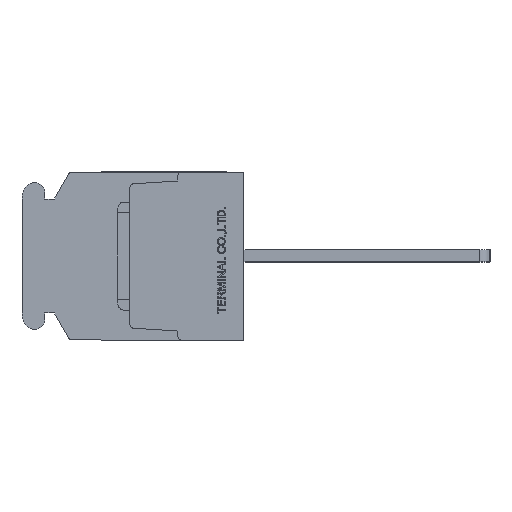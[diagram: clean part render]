
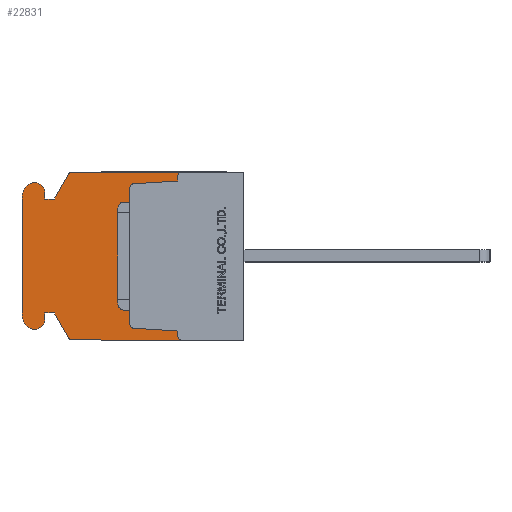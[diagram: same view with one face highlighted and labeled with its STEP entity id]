
A CAD part, left-side view. The second image highlights one B-rep face of the part: STEP entity #22831.
In plain terms, the highlighted planar face has unit normal (-1, 0, 0).
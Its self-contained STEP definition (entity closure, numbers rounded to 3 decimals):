
#430=CIRCLE('',#23236,0.3);
#431=CIRCLE('',#23240,0.3);
#432=CIRCLE('',#23242,0.3);
#433=CIRCLE('',#23246,0.3);
#866=CIRCLE('',#24519,0.3);
#867=CIRCLE('',#24520,0.8);
#868=CIRCLE('',#24521,1.);
#869=CIRCLE('',#24522,2.);
#870=CIRCLE('',#24523,2.);
#871=CIRCLE('',#24524,1.);
#872=CIRCLE('',#24525,0.8);
#873=CIRCLE('',#24526,0.3);
#1253=VERTEX_POINT('',#29740);
#1254=VERTEX_POINT('',#29741);
#1607=VERTEX_POINT('',#31262);
#1608=VERTEX_POINT('',#31266);
#1609=VERTEX_POINT('',#31270);
#1610=VERTEX_POINT('',#31274);
#1611=VERTEX_POINT('',#31278);
#1612=VERTEX_POINT('',#31279);
#1613=VERTEX_POINT('',#31284);
#1614=VERTEX_POINT('',#31288);
#2804=VERTEX_POINT('',#34928);
#2839=VERTEX_POINT('',#35035);
#3159=VERTEX_POINT('',#36046);
#3160=VERTEX_POINT('',#36048);
#3161=VERTEX_POINT('',#36050);
#3162=VERTEX_POINT('',#36052);
#3163=VERTEX_POINT('',#36054);
#3164=VERTEX_POINT('',#36056);
#3165=VERTEX_POINT('',#36058);
#3166=VERTEX_POINT('',#36060);
#3167=VERTEX_POINT('',#36062);
#3168=VERTEX_POINT('',#36064);
#3169=VERTEX_POINT('',#36066);
#3170=VERTEX_POINT('',#36068);
#3171=VERTEX_POINT('',#36070);
#3172=VERTEX_POINT('',#36072);
#3173=VERTEX_POINT('',#36074);
#3174=VERTEX_POINT('',#36076);
#3564=VECTOR('',#24766,1.);
#3973=VECTOR('',#25322,1.);
#3975=VECTOR('',#25325,1.);
#3980=VECTOR('',#25339,1.);
#3982=VECTOR('',#25342,1.);
#5207=VECTOR('',#28126,1.);
#5244=VECTOR('',#28221,1.);
#5641=VECTOR('',#28960,1.);
#5642=VECTOR('',#28961,1.);
#5643=VECTOR('',#28962,1.);
#5644=VECTOR('',#28965,1.);
#5645=VECTOR('',#28970,1.);
#5646=VECTOR('',#28975,1.);
#5647=VECTOR('',#28978,1.);
#5648=VECTOR('',#28979,1.);
#5649=VECTOR('',#28980,1.);
#6099=LINE('',#29739,#3564);
#6508=LINE('',#31265,#3973);
#6510=LINE('',#31269,#3975);
#6515=LINE('',#31283,#3980);
#6517=LINE('',#31287,#3982);
#7742=LINE('',#34929,#5207);
#7779=LINE('',#35034,#5244);
#8176=LINE('',#36047,#5641);
#8177=LINE('',#36049,#5642);
#8178=LINE('',#36051,#5643);
#8179=LINE('',#36055,#5644);
#8180=LINE('',#36061,#5645);
#8181=LINE('',#36067,#5646);
#8182=LINE('',#36071,#5647);
#8183=LINE('',#36073,#5648);
#8184=LINE('',#36075,#5649);
#8634=EDGE_CURVE('',#1253,#1254,#6099,.T.);
#9152=EDGE_CURVE('',#1607,#1253,#430,.T.);
#9154=EDGE_CURVE('',#1608,#1607,#6508,.T.);
#9156=EDGE_CURVE('',#1609,#1608,#6510,.T.);
#9158=EDGE_CURVE('',#1610,#1609,#431,.T.);
#9160=EDGE_CURVE('',#1611,#1612,#432,.T.);
#9163=EDGE_CURVE('',#1613,#1611,#6515,.T.);
#9165=EDGE_CURVE('',#1614,#1613,#6517,.T.);
#9167=EDGE_CURVE('',#1254,#1614,#433,.T.);
#10894=EDGE_CURVE('',#2804,#1612,#7742,.T.);
#10947=EDGE_CURVE('',#1610,#2839,#7779,.T.);
#11498=EDGE_CURVE('',#3159,#2804,#866,.T.);
#11499=EDGE_CURVE('',#3160,#3159,#8176,.T.);
#11500=EDGE_CURVE('',#3161,#3160,#8177,.T.);
#11501=EDGE_CURVE('',#3162,#3161,#8178,.T.);
#11502=EDGE_CURVE('',#3163,#3162,#867,.T.);
#11503=EDGE_CURVE('',#3164,#3163,#8179,.T.);
#11504=EDGE_CURVE('',#3165,#3164,#868,.T.);
#11505=EDGE_CURVE('',#3166,#3165,#869,.T.);
#11506=EDGE_CURVE('',#3167,#3166,#8180,.T.);
#11507=EDGE_CURVE('',#3168,#3167,#870,.T.);
#11508=EDGE_CURVE('',#3169,#3168,#871,.T.);
#11509=EDGE_CURVE('',#3170,#3169,#8181,.T.);
#11510=EDGE_CURVE('',#3171,#3170,#872,.T.);
#11511=EDGE_CURVE('',#3172,#3171,#8182,.T.);
#11512=EDGE_CURVE('',#3173,#3172,#8183,.T.);
#11513=EDGE_CURVE('',#3174,#3173,#8184,.T.);
#11514=EDGE_CURVE('',#2839,#3174,#873,.T.);
#17784=ORIENTED_EDGE('',*,*,#9160,.T.);
#17785=ORIENTED_EDGE('',*,*,#10894,.F.);
#17786=ORIENTED_EDGE('',*,*,#11498,.F.);
#17787=ORIENTED_EDGE('',*,*,#11499,.F.);
#17788=ORIENTED_EDGE('',*,*,#11500,.F.);
#17789=ORIENTED_EDGE('',*,*,#11501,.F.);
#17790=ORIENTED_EDGE('',*,*,#11502,.F.);
#17791=ORIENTED_EDGE('',*,*,#11503,.F.);
#17792=ORIENTED_EDGE('',*,*,#11504,.F.);
#17793=ORIENTED_EDGE('',*,*,#11505,.F.);
#17794=ORIENTED_EDGE('',*,*,#11506,.F.);
#17795=ORIENTED_EDGE('',*,*,#11507,.F.);
#17796=ORIENTED_EDGE('',*,*,#11508,.F.);
#17797=ORIENTED_EDGE('',*,*,#11509,.F.);
#17798=ORIENTED_EDGE('',*,*,#11510,.F.);
#17799=ORIENTED_EDGE('',*,*,#11511,.F.);
#17800=ORIENTED_EDGE('',*,*,#11512,.F.);
#17801=ORIENTED_EDGE('',*,*,#11513,.F.);
#17802=ORIENTED_EDGE('',*,*,#11514,.F.);
#17803=ORIENTED_EDGE('',*,*,#10947,.F.);
#17804=ORIENTED_EDGE('',*,*,#9158,.T.);
#17805=ORIENTED_EDGE('',*,*,#9156,.T.);
#17806=ORIENTED_EDGE('',*,*,#9154,.T.);
#17807=ORIENTED_EDGE('',*,*,#9152,.T.);
#17808=ORIENTED_EDGE('',*,*,#8634,.T.);
#17809=ORIENTED_EDGE('',*,*,#9167,.T.);
#17810=ORIENTED_EDGE('',*,*,#9165,.T.);
#17811=ORIENTED_EDGE('',*,*,#9163,.T.);
#20149=EDGE_LOOP('',(#17784,#17785,#17786,#17787,#17788,#17789,#17790,#17791,
#17792,#17793,#17794,#17795,#17796,#17797,#17798,#17799,#17800,#17801,#17802,
#17803,#17804,#17805,#17806,#17807,#17808,#17809,#17810,#17811));
#21539=FACE_BOUND('',#20149,.T.);
#22831=ADVANCED_FACE('',(#21539),#38487,.F.);
#23236=AXIS2_PLACEMENT_3D('',#31261,#25318,#25319);
#23240=AXIS2_PLACEMENT_3D('',#31273,#25329,#25330);
#23242=AXIS2_PLACEMENT_3D('',#31277,#25334,#25335);
#23246=AXIS2_PLACEMENT_3D('',#31291,#25346,#25347);
#24518=AXIS2_PLACEMENT_3D('',#36044,#28957,$);
#24519=AXIS2_PLACEMENT_3D('',#36045,#28958,#28959);
#24520=AXIS2_PLACEMENT_3D('',#36053,#28963,#28964);
#24521=AXIS2_PLACEMENT_3D('',#36057,#28966,#28967);
#24522=AXIS2_PLACEMENT_3D('',#36059,#28968,#28969);
#24523=AXIS2_PLACEMENT_3D('',#36063,#28971,#28972);
#24524=AXIS2_PLACEMENT_3D('',#36065,#28973,#28974);
#24525=AXIS2_PLACEMENT_3D('',#36069,#28976,#28977);
#24526=AXIS2_PLACEMENT_3D('',#36077,#28981,#28982);
#24766=DIRECTION('',(0.,0.,1.));
#25318=DIRECTION('',(1.,0.,0.));
#25319=DIRECTION('',(0.,0.,-0.3));
#25322=DIRECTION('',(0.,0.998,0.062));
#25325=DIRECTION('',(0.,0.,1.));
#25329=DIRECTION('',(1.,0.,0.));
#25330=DIRECTION('',(0.,0.,-0.3));
#25334=DIRECTION('',(1.,0.,0.));
#25335=DIRECTION('',(0.,0.,-0.3));
#25339=DIRECTION('',(0.,0.,1.));
#25342=DIRECTION('',(0.,-0.998,0.062));
#25346=DIRECTION('',(1.,0.,0.));
#25347=DIRECTION('',(0.,0.,-0.3));
#28126=DIRECTION('',(0.,-1.,0.));
#28221=DIRECTION('',(0.,1.,0.));
#28957=DIRECTION('',(1.,0.,0.));
#28958=DIRECTION('',(1.,0.,0.));
#28959=DIRECTION('',(0.,0.,-0.3));
#28960=DIRECTION('',(0.,-0.5,0.866));
#28961=DIRECTION('',(0.,-1.,0.));
#28962=DIRECTION('',(0.,0.,-1.));
#28963=DIRECTION('',(1.,0.,0.));
#28964=DIRECTION('',(0.,0.,-0.8));
#28965=DIRECTION('',(0.,-1.,0.));
#28966=DIRECTION('',(1.,0.,0.));
#28967=DIRECTION('',(0.,0.,-1.));
#28968=DIRECTION('',(1.,0.,0.));
#28969=DIRECTION('',(0.,0.,-2.));
#28970=DIRECTION('',(0.,0.,1.));
#28971=DIRECTION('',(1.,0.,0.));
#28972=DIRECTION('',(0.,0.,-2.));
#28973=DIRECTION('',(1.,0.,0.));
#28974=DIRECTION('',(0.,0.,-1.));
#28975=DIRECTION('',(0.,1.,0.));
#28976=DIRECTION('',(1.,0.,0.));
#28977=DIRECTION('',(0.,0.,-0.8));
#28978=DIRECTION('',(0.,0.,-1.));
#28979=DIRECTION('',(0.,1.,0.));
#28980=DIRECTION('',(0.,0.5,0.866));
#28981=DIRECTION('',(1.,0.,0.));
#28982=DIRECTION('',(0.,0.,-0.3));
#29739=CARTESIAN_POINT('',(8.15,9.5,0.));
#29740=CARTESIAN_POINT('',(8.15,9.5,-5.718));
#29741=CARTESIAN_POINT('',(8.15,9.5,5.718));
#31261=CARTESIAN_POINT('',(8.15,9.2,-5.718));
#31262=CARTESIAN_POINT('',(8.15,9.219,-6.018));
#31265=CARTESIAN_POINT('',(8.15,8.522,-6.061));
#31266=CARTESIAN_POINT('',(8.15,5.5,-6.25));
#31269=CARTESIAN_POINT('',(8.15,5.5,-3.237));
#31270=CARTESIAN_POINT('',(8.15,5.5,-6.7));
#31273=CARTESIAN_POINT('',(8.15,5.2,-6.7));
#31274=CARTESIAN_POINT('',(8.15,5.2,-7.));
#31277=CARTESIAN_POINT('',(8.15,5.2,6.7));
#31278=CARTESIAN_POINT('',(8.15,5.5,6.7));
#31279=CARTESIAN_POINT('',(8.15,5.2,7.));
#31283=CARTESIAN_POINT('',(8.15,5.5,3.238));
#31284=CARTESIAN_POINT('',(8.15,5.5,6.25));
#31287=CARTESIAN_POINT('',(8.15,8.522,6.061));
#31288=CARTESIAN_POINT('',(8.15,9.219,6.018));
#31291=CARTESIAN_POINT('',(8.15,9.2,5.718));
#34928=CARTESIAN_POINT('',(8.15,14.327,7.));
#34929=CARTESIAN_POINT('',(8.15,14.327,7.));
#35034=CARTESIAN_POINT('',(8.15,0.,-7.));
#35035=CARTESIAN_POINT('',(8.15,14.327,-7.));
#36044=CARTESIAN_POINT('',(8.15,9.311,0.));
#36045=CARTESIAN_POINT('',(8.15,14.327,6.7));
#36046=CARTESIAN_POINT('',(8.15,14.587,6.85));
#36047=CARTESIAN_POINT('',(8.15,15.8,4.75));
#36048=CARTESIAN_POINT('',(8.15,15.8,4.75));
#36049=CARTESIAN_POINT('',(8.15,16.6,4.75));
#36050=CARTESIAN_POINT('',(8.15,16.6,4.75));
#36051=CARTESIAN_POINT('',(8.15,16.6,5.3));
#36052=CARTESIAN_POINT('',(8.15,16.6,5.3));
#36053=CARTESIAN_POINT('',(8.15,17.4,5.3));
#36054=CARTESIAN_POINT('',(8.15,17.4,6.1));
#36055=CARTESIAN_POINT('',(8.15,17.437,6.1));
#36056=CARTESIAN_POINT('',(8.15,17.437,6.1));
#36057=CARTESIAN_POINT('',(8.15,17.437,5.1));
#36058=CARTESIAN_POINT('',(8.15,18.373,5.45));
#36059=CARTESIAN_POINT('',(8.15,16.5,4.75));
#36060=CARTESIAN_POINT('',(8.15,18.5,4.75));
#36061=CARTESIAN_POINT('',(8.15,18.5,-4.75));
#36062=CARTESIAN_POINT('',(8.15,18.5,-4.75));
#36063=CARTESIAN_POINT('',(8.15,16.5,-4.75));
#36064=CARTESIAN_POINT('',(8.15,18.373,-5.45));
#36065=CARTESIAN_POINT('',(8.15,17.437,-5.1));
#36066=CARTESIAN_POINT('',(8.15,17.437,-6.1));
#36067=CARTESIAN_POINT('',(8.15,17.4,-6.1));
#36068=CARTESIAN_POINT('',(8.15,17.4,-6.1));
#36069=CARTESIAN_POINT('',(8.15,17.4,-5.3));
#36070=CARTESIAN_POINT('',(8.15,16.6,-5.3));
#36071=CARTESIAN_POINT('',(8.15,16.6,-4.75));
#36072=CARTESIAN_POINT('',(8.15,16.6,-4.75));
#36073=CARTESIAN_POINT('',(8.15,15.8,-4.75));
#36074=CARTESIAN_POINT('',(8.15,15.8,-4.75));
#36075=CARTESIAN_POINT('',(8.15,14.587,-6.85));
#36076=CARTESIAN_POINT('',(8.15,14.587,-6.85));
#36077=CARTESIAN_POINT('',(8.15,14.327,-6.7));
#38487=PLANE('',#24518);
